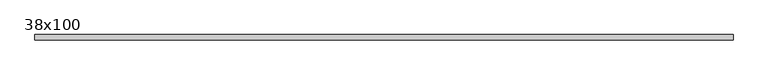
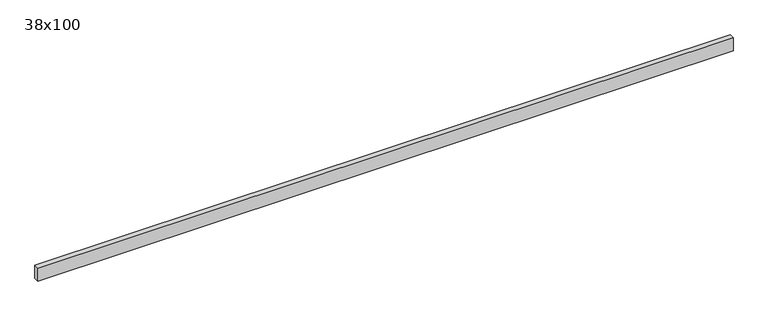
"""IFC4 building model written with IfcOpenShell, lengths in millimetres: beam geometry, Poutre - Bois de construction de dimensions courantes : 38x100."""

import ifcopenshell
import ifcopenshell.guid

model = None  # the IFC model being written
_history = None  # IfcOwnerHistory: only IFC2X3 demands one
_inside = {}  # id of a spatial element -> (the spatial element, [elements in it])
_under = {}  # id of a project, library or spatial element -> (it, [spatial elements below it])
_declared = {}  # id of a project -> (the project, [libraries it declares])
_typed = {}  # id of a type object -> (the type object, [elements of that type])
_made_of = {}  # id of a material, layer set ... -> (it, [elements and type objects made of it])


def new_model(schema):
    """Start an empty IFC model of exactly this schema.

    Asked for "IFC4X3", IfcOpenShell would pick the latest addendum, in which some entities
    have other attributes; the version numbers below select the first issue.
    IFC2X3 requires an IfcOwnerHistory on every rooted entity: one is made here for all.
    """
    global model, _history
    if schema == "IFC4X3":
        model = ifcopenshell.file(schema_version=(4, 3, 0, 0))
    else:
        model = ifcopenshell.file(schema=schema)
    _inside.clear()
    _under.clear()
    _declared.clear()
    _typed.clear()
    _made_of.clear()
    _history = None
    if model.schema == "IFC2X3":
        org = make("IfcOrganization", Name="unknown")
        user = make(
            "IfcPersonAndOrganization",
            ThePerson=make("IfcPerson", FamilyName="unknown"),
            TheOrganization=org,
        )
        app = make(
            "IfcApplication",
            ApplicationDeveloper=org,
            Version="unknown",
            ApplicationFullName="unknown",
            ApplicationIdentifier="unknown",
        )
        _history = make(
            "IfcOwnerHistory",
            OwningUser=user,
            OwningApplication=app,
            ChangeAction="ADDED",
            CreationDate=0,
        )
    return model


def make(cls, **values):
    """One entity of the class cls with the attributes given. An attribute that is None is left unset."""
    return model.create_entity(
        cls, **{name: value for name, value in values.items() if value is not None}
    )


def rooted(cls, **values):
    """An entity with a GlobalId (a new one), such as an element, a storey or a relation."""
    return make(cls, GlobalId=ifcopenshell.guid.new(), OwnerHistory=_history, **values)


def si_unit(unit_type, name, prefix=None):
    """IfcSIUnit, for example si_unit("LENGTHUNIT", "METRE", prefix="MILLI")."""
    return make("IfcSIUnit", UnitType=unit_type, Prefix=prefix, Name=name)


def assignment(units):
    """IfcUnitAssignment: the units of a project."""
    return None if units is None else make("IfcUnitAssignment", Units=units)


def point(xyz):
    """IfcCartesianPoint."""
    return None if xyz is None else make("IfcCartesianPoint", Coordinates=xyz)


def direction(xyz):
    """IfcDirection."""
    return None if xyz is None else make("IfcDirection", DirectionRatios=xyz)


def frame(location, z_axis=None, x_axis=None):
    """IfcAxis2Placement3D, a coordinate frame: its origin and axes. An axis left out is left unset."""
    return make(
        "IfcAxis2Placement3D",
        Location=point(location),
        Axis=direction(z_axis),
        RefDirection=direction(x_axis),
    )


def origin():
    """The frame at (0, 0, 0) with its axes left unset."""
    return frame((0.0, 0.0, 0.0))


def place(relative_to, where):
    """IfcLocalPlacement: puts the frame where relative to a parent placement (None: the world)."""
    return make(
        "IfcLocalPlacement", PlacementRelTo=relative_to, RelativePlacement=where
    )


def context(
    kind, dimensions, precision=None, world=None, true_north=None, identifier=None
):
    """IfcGeometricRepresentationContext, for example the 3D "Model" context."""
    return make(
        "IfcGeometricRepresentationContext",
        ContextIdentifier=identifier,
        ContextType=kind,
        CoordinateSpaceDimension=dimensions,
        Precision=precision,
        WorldCoordinateSystem=world,
        TrueNorth=true_north,
    )


def project(units=None, contexts=None):
    """IfcProject with its units and contexts."""
    return rooted(
        "IfcProject",
        Name="project",
        RepresentationContexts=contexts,
        UnitsInContext=assignment(units),
    )


def spatial(cls, under=None, at=None, **own):
    """A site, building, storey or space (cls), placed at a placement, below another one or the project."""
    s = rooted(cls, ObjectPlacement=at, **own)
    if under is not None:
        _under.setdefault(under.id(), (under, []))[1].append(s)
    return s


def polyline(points):
    """IfcPolyline through the points."""
    return make("IfcPolyline", Points=[point(p) for p in points])


def outline(outer, holes=None, kind="AREA"):
    """IfcArbitraryClosedProfileDef: a profile drawn as a closed curve; with holes, ...WithVoids."""
    if holes is None:
        return make("IfcArbitraryClosedProfileDef", ProfileType=kind, OuterCurve=outer)
    return make(
        "IfcArbitraryProfileDefWithVoids",
        ProfileType=kind,
        OuterCurve=outer,
        InnerCurves=holes,
    )


def extrude(swept, where, along, depth):
    """IfcExtrudedAreaSolid: the profile swept, set in the frame where, extruded along a direction by depth."""
    return make(
        "IfcExtrudedAreaSolid",
        SweptArea=swept,
        Position=where,
        ExtrudedDirection=direction(along),
        Depth=depth,
    )


def shape(context_of_items, identifier, shape_type, items):
    """IfcShapeRepresentation: the items that make up one representation, for example the "Body"."""
    return make(
        "IfcShapeRepresentation",
        ContextOfItems=context_of_items,
        RepresentationIdentifier=identifier,
        RepresentationType=shape_type,
        Items=items,
    )


def source(mapping_origin, context_of_items, identifier, shape_type, items):
    """IfcRepresentationMap: a shape defined once, which mapped items show again and again."""
    return make(
        "IfcRepresentationMap",
        MappingOrigin=mapping_origin,
        MappedRepresentation=shape(context_of_items, identifier, shape_type, items),
    )


def transform(
    local_origin,
    x_axis=None,
    y_axis=None,
    z_axis=None,
    scale=None,
    scale2=None,
    scale3=None,
    uniform=True,
):
    """IfcCartesianTransformationOperator3D, or its non-uniform kind. x_axis, y_axis, z_axis: its Axis1, 2, 3."""
    if uniform:
        return make(
            "IfcCartesianTransformationOperator3D",
            Axis1=direction(x_axis),
            Axis2=direction(y_axis),
            LocalOrigin=point(local_origin),
            Scale=scale,
            Axis3=direction(z_axis),
        )
    return make(
        "IfcCartesianTransformationOperator3DnonUniform",
        Axis1=direction(x_axis),
        Axis2=direction(y_axis),
        LocalOrigin=point(local_origin),
        Scale=scale,
        Axis3=direction(z_axis),
        Scale2=scale2,
        Scale3=scale3,
    )


def mapped(mapping_source, mapping_target):
    """IfcMappedItem: shows the shape of a source again, moved by a transform."""
    return make(
        "IfcMappedItem", MappingSource=mapping_source, MappingTarget=mapping_target
    )


def made_of(thing, what):
    """Note that an element or type object is made of a material, layer set ...; save() writes the relation."""
    if what is not None:
        _made_of.setdefault(what.id(), (what, []))[1].append(thing)
    return thing


def element(
    cls,
    number,
    at=None,
    inside=None,
    cuts=None,
    type_object=None,
    material=None,
    context=None,
    identifier="Body",
    shape_type=None,
    held_by="IfcProductDefinitionShape",
    body=None,
    shapes=None,
    **own,
):
    """One element of the class cls, such as IfcWall. Its Tag is "e" and its number.

    at: its placement. inside: the storey or other place that contains it. cuts: it is an
    opening in that element (IfcRelVoidsElement). A single representation is given by context,
    identifier, shape_type and body (its items); several are given by shapes. held_by: the class
    of the entity that holds the representations. save() writes the other relations.
    """
    e = rooted(cls, Tag="e%d" % number, ObjectPlacement=at, **own)
    if body is not None:
        shapes = [shape(context, identifier, shape_type, body)]
    if shapes is not None:
        e.Representation = make(held_by, Representations=shapes)
    if inside is not None:
        _inside.setdefault(inside.id(), (inside, []))[1].append(e)
    if cuts is not None:
        rooted(
            "IfcRelVoidsElement", RelatingBuildingElement=cuts, RelatedOpeningElement=e
        )
    if type_object is not None:
        _typed.setdefault(type_object.id(), (type_object, []))[1].append(e)
    return made_of(e, material)


def aggregate(whole, parts):
    """IfcRelAggregates: a whole, such as a stair, and the parts it consists of."""
    return rooted("IfcRelAggregates", RelatingObject=whole, RelatedObjects=parts)


def save(model, path):
    """Write the relations noted so far, then the file.

    IfcRelAggregates (storeys below a building ...), IfcRelContainedInSpatialStructure (elements
    in a storey), IfcRelDefinesByType, IfcRelAssociatesMaterial and IfcRelDeclares: one each for
    every whole, place, type object, material and project.
    """
    for whole, parts in _under.values():
        aggregate(whole, parts)
    for where, things in _inside.values():
        rooted(
            "IfcRelContainedInSpatialStructure",
            RelatedElements=things,
            RelatingStructure=where,
        )
    for kind, things in _typed.values():
        rooted("IfcRelDefinesByType", RelatedObjects=things, RelatingType=kind)
    for what, things in _made_of.values():
        rooted("IfcRelAssociatesMaterial", RelatedObjects=things, RelatingMaterial=what)
    for by, libraries in _declared.values():
        rooted("IfcRelDeclares", RelatingContext=by, RelatedDefinitions=libraries)
    model.write(path)


def beam_38x100_bcd3e10c(model_context):
    return source(origin(), model_context, "Body", "SweptSolid", [
        extrude(outline(polyline([(2462.5, 19.05), (2462.5, -19.05), (-2622.5, -19.05), (-2622.5, 19.05), (2462.5, 19.05)])), frame((0.0, 0.0, -50.0), z_axis=(0.0, 0.0, 1.0), x_axis=(1.0, 0.0, 0.0)), (0.0, 0.0, 1.0), 100.0),
    ])


if __name__ == "__main__":
    model = new_model("IFC4")
    model_context = context("Model", 3, world=origin())
    ifc_project = project(units=[si_unit("LENGTHUNIT", "METRE", prefix="MILLI")], contexts=[model_context])
    site = spatial("IfcSite", under=ifc_project)
    building = spatial("IfcBuilding", under=site)
    placement = place(None, origin())
    beam_38x100_shape = beam_38x100_bcd3e10c(model_context)
    element("IfcBeam", 1, ObjectType="Poutre - Bois de construction de dimensions courantes : 38x100", at=placement, inside=building, context=model_context, shape_type="MappedRepresentation", body=[
        mapped(beam_38x100_shape, transform((0.0, 0.0, 0.0), x_axis=(1.0, 0.0, 0.0), y_axis=(0.0, 1.0, 0.0), z_axis=(0.0, 0.0, 1.0))),
    ])
    save(model, "model.ifc")
